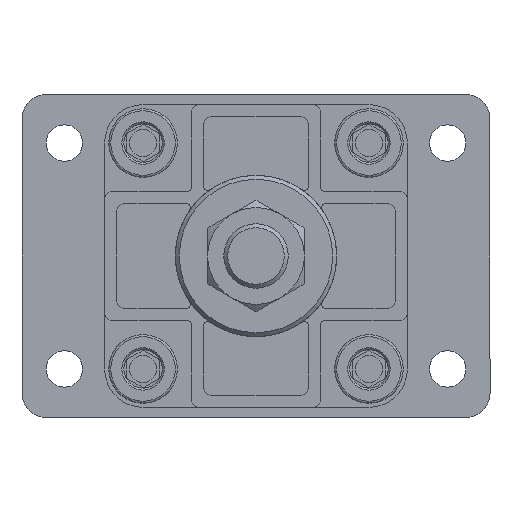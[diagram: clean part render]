
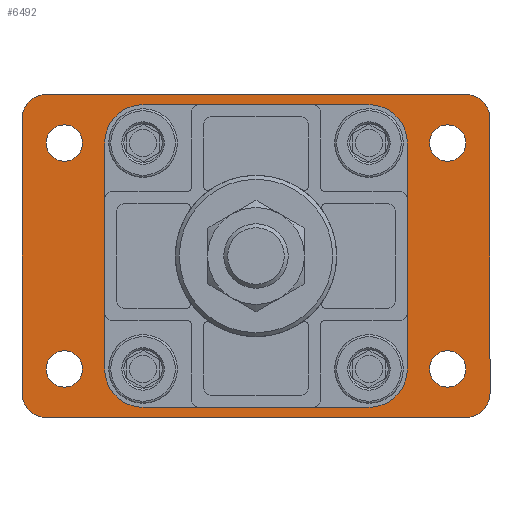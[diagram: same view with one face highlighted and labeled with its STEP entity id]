
A CAD part, front view. The second image highlights one B-rep face of the part: STEP entity #6492.
In plain terms, the highlighted planar face has unit normal (0, -1, 0) as drawn and (0, 1, 0) by its records, which use the part's own axes.
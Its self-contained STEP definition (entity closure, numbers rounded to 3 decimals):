
#477=CIRCLE('',#7046,21.);
#479=CIRCLE('',#7049,4.5);
#481=CIRCLE('',#7052,4.5);
#483=CIRCLE('',#7055,4.5);
#485=CIRCLE('',#7058,4.5);
#494=CIRCLE('',#7070,4.5);
#495=CIRCLE('',#7071,4.5);
#496=CIRCLE('',#7072,4.5);
#497=CIRCLE('',#7073,4.5);
#498=CIRCLE('',#7074,6.);
#499=CIRCLE('',#7075,6.);
#500=CIRCLE('',#7076,6.);
#501=CIRCLE('',#7077,6.);
#1731=ORIENTED_EDGE('',*,*,#2411,.F.);
#1732=ORIENTED_EDGE('',*,*,#2412,.F.);
#1733=ORIENTED_EDGE('',*,*,#2413,.F.);
#1734=ORIENTED_EDGE('',*,*,#2414,.F.);
#1735=ORIENTED_EDGE('',*,*,#2398,.T.);
#1736=ORIENTED_EDGE('',*,*,#2396,.T.);
#1737=ORIENTED_EDGE('',*,*,#2394,.T.);
#1738=ORIENTED_EDGE('',*,*,#2392,.T.);
#1739=ORIENTED_EDGE('',*,*,#2390,.T.);
#1740=ORIENTED_EDGE('',*,*,#2379,.T.);
#1741=ORIENTED_EDGE('',*,*,#2415,.T.);
#1742=ORIENTED_EDGE('',*,*,#2381,.T.);
#1743=ORIENTED_EDGE('',*,*,#2416,.T.);
#1744=ORIENTED_EDGE('',*,*,#2385,.T.);
#1745=ORIENTED_EDGE('',*,*,#2417,.T.);
#1746=ORIENTED_EDGE('',*,*,#2399,.T.);
#1747=ORIENTED_EDGE('',*,*,#2418,.T.);
#2379=EDGE_CURVE('',#2843,#2842,#3210,.T.);
#2381=EDGE_CURVE('',#2844,#2845,#3212,.T.);
#2385=EDGE_CURVE('',#2848,#2849,#3216,.T.);
#2390=EDGE_CURVE('',#2853,#2853,#477,.F.);
#2392=EDGE_CURVE('',#2855,#2855,#479,.T.);
#2394=EDGE_CURVE('',#2857,#2857,#481,.T.);
#2396=EDGE_CURVE('',#2859,#2859,#483,.T.);
#2398=EDGE_CURVE('',#2861,#2861,#485,.T.);
#2399=EDGE_CURVE('',#2862,#2863,#3220,.T.);
#2411=EDGE_CURVE('',#2870,#2870,#494,.T.);
#2412=EDGE_CURVE('',#2871,#2871,#495,.T.);
#2413=EDGE_CURVE('',#2872,#2872,#496,.T.);
#2414=EDGE_CURVE('',#2873,#2873,#497,.T.);
#2415=EDGE_CURVE('',#2842,#2844,#498,.T.);
#2416=EDGE_CURVE('',#2845,#2848,#499,.T.);
#2417=EDGE_CURVE('',#2849,#2862,#500,.T.);
#2418=EDGE_CURVE('',#2863,#2843,#501,.T.);
#2842=VERTEX_POINT('',#9947);
#2843=VERTEX_POINT('',#9949);
#2844=VERTEX_POINT('',#9953);
#2845=VERTEX_POINT('',#9954);
#2848=VERTEX_POINT('',#9962);
#2849=VERTEX_POINT('',#9963);
#2853=VERTEX_POINT('',#9973);
#2855=VERTEX_POINT('',#9978);
#2857=VERTEX_POINT('',#9983);
#2859=VERTEX_POINT('',#9988);
#2861=VERTEX_POINT('',#9993);
#2862=VERTEX_POINT('',#9996);
#2863=VERTEX_POINT('',#9997);
#2870=VERTEX_POINT('',#10018);
#2871=VERTEX_POINT('',#10020);
#2872=VERTEX_POINT('',#10022);
#2873=VERTEX_POINT('',#10024);
#3210=LINE('',#9948,#3552);
#3212=LINE('',#9952,#3554);
#3216=LINE('',#9961,#3558);
#3220=LINE('',#9995,#3562);
#3552=VECTOR('',#8437,1000.);
#3554=VECTOR('',#8441,1000.);
#3558=VECTOR('',#8447,1000.);
#3562=VECTOR('',#8483,1000.);
#3938=EDGE_LOOP('',(#1731));
#3939=EDGE_LOOP('',(#1732));
#3940=EDGE_LOOP('',(#1733));
#3941=EDGE_LOOP('',(#1734));
#3942=EDGE_LOOP('',(#1735));
#3943=EDGE_LOOP('',(#1736));
#3944=EDGE_LOOP('',(#1737));
#3945=EDGE_LOOP('',(#1738));
#3946=EDGE_LOOP('',(#1739));
#3947=EDGE_LOOP('',(#1740,#1741,#1742,#1743,#1744,#1745,#1746,#1747));
#4348=FACE_BOUND('',#3938,.T.);
#4349=FACE_BOUND('',#3939,.T.);
#4350=FACE_BOUND('',#3940,.T.);
#4351=FACE_BOUND('',#3941,.T.);
#4352=FACE_BOUND('',#3942,.T.);
#4353=FACE_BOUND('',#3943,.T.);
#4354=FACE_BOUND('',#3944,.T.);
#4355=FACE_BOUND('',#3945,.T.);
#4356=FACE_BOUND('',#3946,.T.);
#4357=FACE_BOUND('',#3947,.T.);
#4524=PLANE('',#7069);
#6492=ADVANCED_FACE('',(#4348,#4349,#4350,#4351,#4352,#4353,#4354,#4355,
#4356,#4357),#4524,.T.);
#7046=AXIS2_PLACEMENT_3D('',#9972,#8455,#8456);
#7049=AXIS2_PLACEMENT_3D('',#9977,#8461,#8462);
#7052=AXIS2_PLACEMENT_3D('',#9982,#8467,#8468);
#7055=AXIS2_PLACEMENT_3D('',#9987,#8473,#8474);
#7058=AXIS2_PLACEMENT_3D('',#9992,#8479,#8480);
#7069=AXIS2_PLACEMENT_3D('',#10016,#8505,#8506);
#7070=AXIS2_PLACEMENT_3D('',#10017,#8507,#8508);
#7071=AXIS2_PLACEMENT_3D('',#10019,#8509,#8510);
#7072=AXIS2_PLACEMENT_3D('',#10021,#8511,#8512);
#7073=AXIS2_PLACEMENT_3D('',#10023,#8513,#8514);
#7074=AXIS2_PLACEMENT_3D('',#10025,#8515,#8516);
#7075=AXIS2_PLACEMENT_3D('',#10026,#8517,#8518);
#7076=AXIS2_PLACEMENT_3D('',#10027,#8519,#8520);
#7077=AXIS2_PLACEMENT_3D('',#10028,#8521,#8522);
#8437=DIRECTION('',(-1.,0.,0.));
#8441=DIRECTION('',(0.,0.,1.));
#8447=DIRECTION('',(1.,0.,0.));
#8455=DIRECTION('',(0.,1.,0.));
#8456=DIRECTION('',(0.,0.,1.));
#8461=DIRECTION('',(0.,-1.,0.));
#8462=DIRECTION('',(1.,0.,0.));
#8467=DIRECTION('',(0.,-1.,0.));
#8468=DIRECTION('',(1.,0.,0.));
#8473=DIRECTION('',(0.,-1.,0.));
#8474=DIRECTION('',(1.,0.,0.));
#8479=DIRECTION('',(0.,-1.,0.));
#8480=DIRECTION('',(1.,0.,0.));
#8483=DIRECTION('',(0.,0.,-1.));
#8505=DIRECTION('',(0.,1.,0.));
#8506=DIRECTION('',(0.,0.,1.));
#8507=DIRECTION('',(0.,1.,0.));
#8508=DIRECTION('',(0.,0.,1.));
#8509=DIRECTION('',(0.,1.,0.));
#8510=DIRECTION('',(0.,0.,1.));
#8511=DIRECTION('',(0.,1.,0.));
#8512=DIRECTION('',(0.,0.,1.));
#8513=DIRECTION('',(0.,1.,0.));
#8514=DIRECTION('',(0.,0.,1.));
#8515=DIRECTION('',(0.,1.,0.));
#8516=DIRECTION('',(0.,0.,1.));
#8517=DIRECTION('',(0.,1.,0.));
#8518=DIRECTION('',(0.,0.,1.));
#8519=DIRECTION('',(0.,1.,0.));
#8520=DIRECTION('',(0.,0.,1.));
#8521=DIRECTION('',(0.,1.,0.));
#8522=DIRECTION('',(0.,0.,1.));
#9947=CARTESIAN_POINT('',(-52.,0.,-40.));
#9948=CARTESIAN_POINT('',(58.,0.,-40.));
#9949=CARTESIAN_POINT('',(52.,0.,-40.));
#9952=CARTESIAN_POINT('',(-58.,0.,-40.));
#9953=CARTESIAN_POINT('',(-58.,0.,-34.));
#9954=CARTESIAN_POINT('',(-58.,0.,34.));
#9961=CARTESIAN_POINT('',(-58.,0.,40.));
#9962=CARTESIAN_POINT('',(-52.,0.,40.));
#9963=CARTESIAN_POINT('',(52.,0.,40.));
#9972=CARTESIAN_POINT('',(0.,0.,0.));
#9973=CARTESIAN_POINT('',(0.,0.,21.));
#9977=CARTESIAN_POINT('',(-47.5,0.,28.));
#9978=CARTESIAN_POINT('',(-43.,0.,28.));
#9982=CARTESIAN_POINT('',(47.5,0.,-28.));
#9983=CARTESIAN_POINT('',(52.,0.,-28.));
#9987=CARTESIAN_POINT('',(-47.5,0.,-28.));
#9988=CARTESIAN_POINT('',(-43.,0.,-28.));
#9992=CARTESIAN_POINT('',(47.5,0.,28.));
#9993=CARTESIAN_POINT('',(52.,0.,28.));
#9995=CARTESIAN_POINT('',(58.,0.,40.));
#9996=CARTESIAN_POINT('',(58.,0.,34.));
#9997=CARTESIAN_POINT('',(58.,0.,-34.));
#10016=CARTESIAN_POINT('',(0.,0.,0.));
#10017=CARTESIAN_POINT('',(-28.,0.,-28.));
#10018=CARTESIAN_POINT('',(-28.,0.,-23.5));
#10019=CARTESIAN_POINT('',(28.,0.,-28.));
#10020=CARTESIAN_POINT('',(28.,0.,-23.5));
#10021=CARTESIAN_POINT('',(28.,0.,28.));
#10022=CARTESIAN_POINT('',(28.,0.,32.5));
#10023=CARTESIAN_POINT('',(-28.,0.,28.));
#10024=CARTESIAN_POINT('',(-28.,0.,32.5));
#10025=CARTESIAN_POINT('',(-52.,0.,-34.));
#10026=CARTESIAN_POINT('',(-52.,0.,34.));
#10027=CARTESIAN_POINT('',(52.,0.,34.));
#10028=CARTESIAN_POINT('',(52.,0.,-34.));
